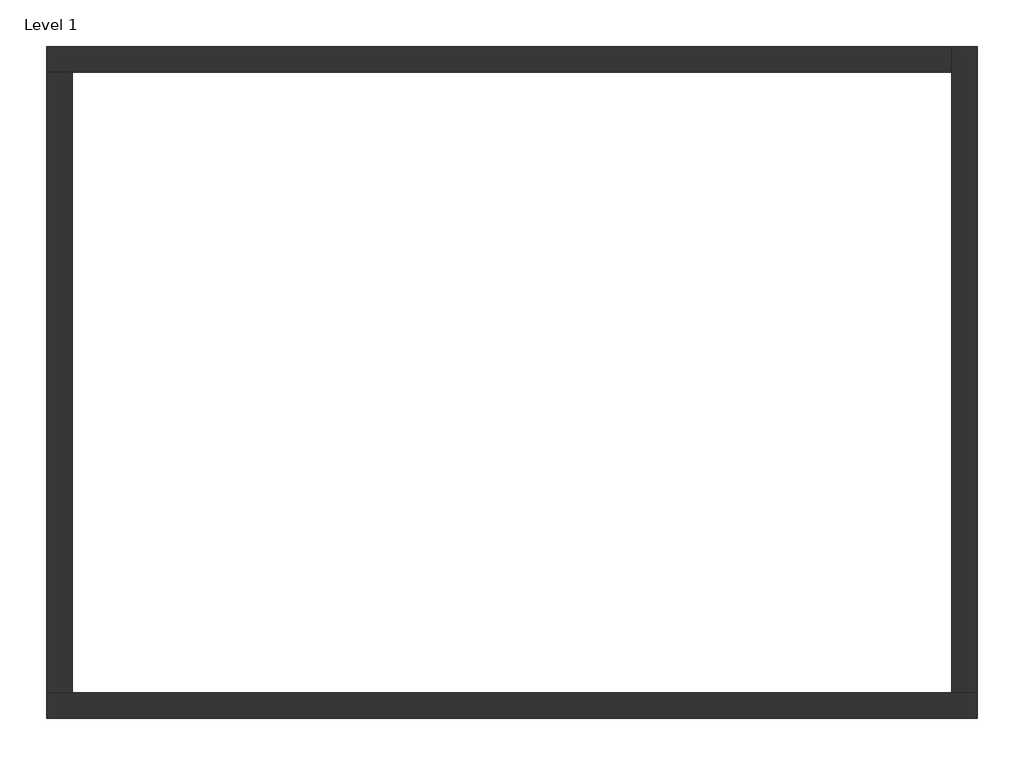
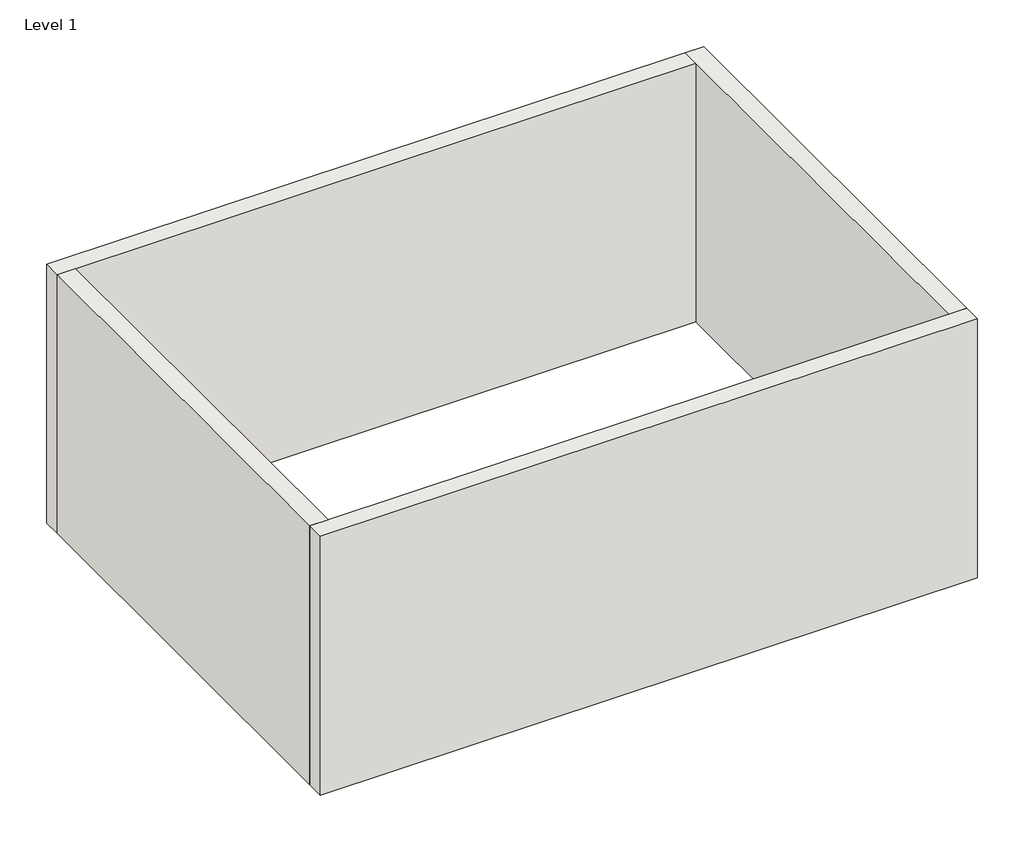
# One storey: 4 walls.
"""IFC4 building model written with IfcOpenShell, lengths in millimetres."""

from ifc_helpers import new_model, si_unit, origin, origin_with_axes, place, context, project, spatial, polyline, outline, extrude, faceted_brep, element, save

model = new_model("IFC4")

# Units and contexts
model_context = context("Model", 3, world=origin())
ifc_project = project(units=[si_unit("LENGTHUNIT", "METRE", prefix="MILLI")], contexts=[model_context])

# Site, building, storey
site = spatial("IfcSite", under=ifc_project)
building = spatial("IfcBuilding", under=site)
storey = spatial("IfcBuildingStorey", under=building, Name="Level 1", Elevation=0.0)

# Walls
placement = place(None, origin())
element("IfcWall", 1, ObjectType="Generic - 200mm", at=placement, inside=storey, context=model_context, shape_type="Brep", body=[
    faceted_brep([(-10736.9407541, 902.283256, 0.0), (-3536.9407541, 902.283256, 0.0), (-3536.9407541, 902.283256, 3000.0), (-10736.9407541, 902.283256, 3000.0), (-10736.9407541, 1102.283256, 0.0), (-10736.9407541, 1102.283256, 3000.0), (-10536.9407541, 1102.283256, 3000.0), (-3736.9407541, 1102.283256, 3000.0), (-3536.9407541, 1102.283256, 3000.0), (-3536.9407541, 1102.283256, 0.0), (-3736.9407541, 1102.283256, 0.0), (-10536.9407541, 1102.283256, 0.0)], [[[0, 1, 2, 3]], [[4, 5, 6, 7, 8, 9, 10, 11]], [[1, 0, 4, 11, 10, 9]], [[3, 2, 8, 7, 6, 5]], [[2, 1, 9, 8]], [[0, 3, 5, 4]]]),
])
element("IfcWall", 2, ObjectType="Generic - 200mm", at=placement, inside=storey, context=model_context, shape_type="Brep", body=[
    faceted_brep([(-3536.9407541, 1102.283256, 0.0), (-3536.9407541, 6102.283256, 0.0), (-3536.9407541, 6102.283256, 3000.0), (-3536.9407541, 1102.283256, 3000.0), (-3736.9407541, 1102.283256, 0.0), (-3736.9407541, 1102.283256, 3000.0), (-3736.9407541, 5902.283256, 3000.0), (-3736.9407541, 6102.283256, 3000.0), (-3736.9407541, 6102.283256, 0.0), (-3736.9407541, 5902.283256, 0.0)], [[[0, 1, 2, 3]], [[4, 5, 6, 7, 8, 9]], [[1, 0, 4, 9, 8]], [[3, 2, 7, 6, 5]], [[0, 3, 5, 4]], [[2, 1, 8, 7]]]),
])
element("IfcWall", 3, ObjectType="Generic - 200mm", at=placement, inside=storey, context=model_context, shape_type="Brep", body=[
    faceted_brep([(-3736.9407541, 6102.283256, 0.0), (-10736.9407541, 6102.283256, 0.0), (-10736.9407541, 6102.283256, 3000.0), (-3736.9407541, 6102.283256, 3000.0), (-3736.9407541, 5902.283256, 0.0), (-3736.9407541, 5902.283256, 3000.0), (-10536.9407541, 5902.283256, 3000.0), (-10736.9407541, 5902.283256, 3000.0), (-10736.9407541, 5902.283256, 0.0), (-10536.9407541, 5902.283256, 0.0)], [[[0, 1, 2, 3]], [[4, 5, 6, 7, 8, 9]], [[1, 0, 4, 9, 8]], [[3, 2, 7, 6, 5]], [[0, 3, 5, 4]], [[2, 1, 8, 7]]]),
])
element("IfcWall", 4, ObjectType="Generic - 200mm", at=placement, inside=storey, context=model_context, shape_type="SweptSolid", body=[
    extrude(outline(polyline([(-10736.9407541, 1102.283256), (-10736.9407541, 5902.283256), (-10536.9407541, 5902.283256), (-10536.9407541, 1102.283256), (-10736.9407541, 1102.283256)])), origin_with_axes(), (0.0, 0.0, 1.0), 3000.0),
])

save(model, "model.ifc")
